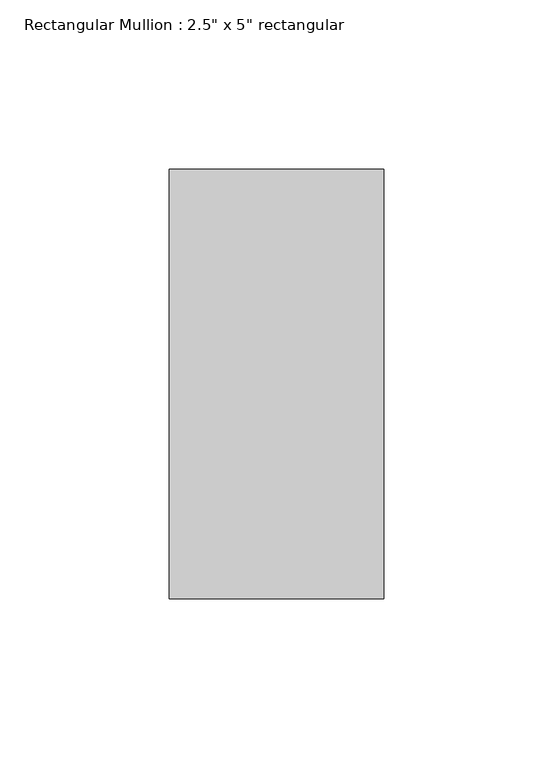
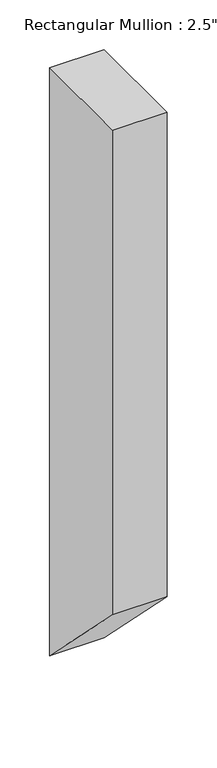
"""IFC4 building model written with IfcOpenShell, lengths in millimetres: member geometry."""

from ifc_helpers import new_model, si_unit, frame, origin, place, context, project, spatial, polyline, outline, extrude, source, transform, mapped, element, save


def member_7a68eee0(model_context):
    return source(origin(), model_context, "Body", "SweptSolid", [
        extrude(outline(polyline([(-63.5, 0.0), (63.5, 0.0), (63.5, -722.4), (-63.5, -595.4), (-63.5, 0.0)])), frame((-63.5, 0.0, 0.0), z_axis=(1.0, 0.0, 0.0), x_axis=(0.0, 1.0, 0.0)), (0.0, 0.0, 1.0), 63.5),
    ])


if __name__ == "__main__":
    model = new_model("IFC4")
    model_context = context("Model", 3, world=origin())
    ifc_project = project(units=[si_unit("LENGTHUNIT", "METRE", prefix="MILLI")], contexts=[model_context])
    site = spatial("IfcSite", under=ifc_project)
    building = spatial("IfcBuilding", under=site)
    placement = place(None, origin())
    member_shape = member_7a68eee0(model_context)
    element("IfcMember", 1, ObjectType="Rectangular Mullion : 2.5\" x 5\" rectangular", at=placement, inside=building, context=model_context, shape_type="MappedRepresentation", body=[
        mapped(member_shape, transform((0.0, 0.0, 0.0), x_axis=(1.0, 0.0, 0.0), y_axis=(0.0, 1.0, 0.0), z_axis=(0.0, 0.0, 1.0))),
    ])
    save(model, "model.ifc")
